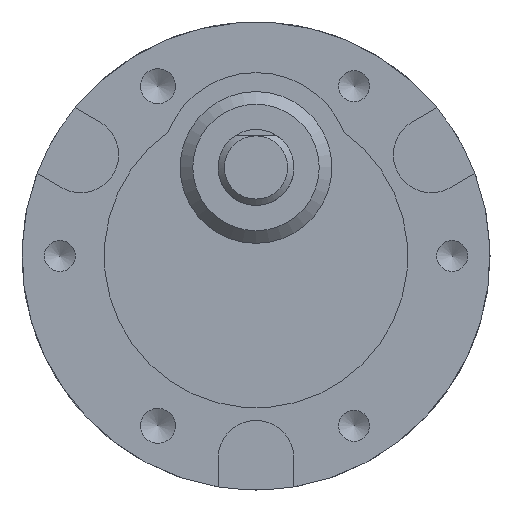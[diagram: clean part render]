
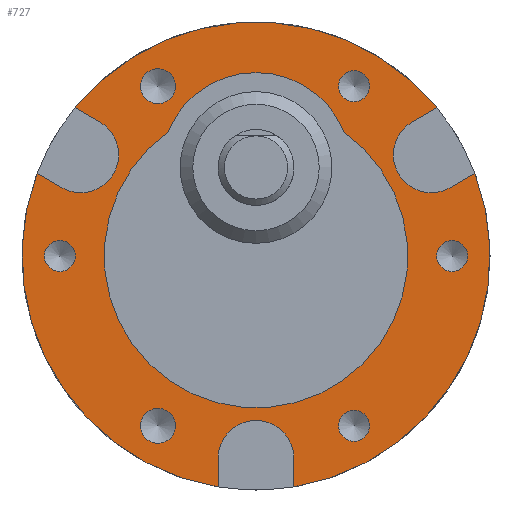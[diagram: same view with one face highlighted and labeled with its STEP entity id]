
A CAD part, front view. The second image highlights one B-rep face of the part: STEP entity #727.
In plain terms, the highlighted planar face has unit normal (0, -1, 0).
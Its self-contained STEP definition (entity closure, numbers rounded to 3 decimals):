
#351=CARTESIAN_POINT('',(14.309,0.0,11.726));
#352=VERTEX_POINT('',#351);
#359=CARTESIAN_POINT('',(12.356,0.0,10.598));
#360=VERTEX_POINT('',#359);
#361=CARTESIAN_POINT('',(12.356,0.0,10.598));
#362=DIRECTION('',(0.866,0.0,0.5));
#363=VECTOR('',#362,2.255);
#364=LINE('',#361,#363);
#365=EDGE_CURVE('',#360,#352,#364,.T.);
#391=CARTESIAN_POINT('',(15.356,0.0,5.402));
#392=VERTEX_POINT('',#391);
#393=CARTESIAN_POINT('',(13.856,0.0,8.));
#394=DIRECTION('',(0.0,1.0,0.0));
#395=DIRECTION('',(-0.5,0.0,0.866));
#396=AXIS2_PLACEMENT_3D('',#393,#394,#395);
#397=CIRCLE('',#396,3.);
#398=EDGE_CURVE('',#392,#360,#397,.T.);
#423=CARTESIAN_POINT('',(17.309,0.0,6.529));
#424=VERTEX_POINT('',#423);
#425=CARTESIAN_POINT('',(17.309,0.0,6.529));
#426=DIRECTION('',(-0.866,0.0,-0.5));
#427=VECTOR('',#426,2.255);
#428=LINE('',#425,#427);
#429=EDGE_CURVE('',#424,#392,#428,.T.);
#473=CARTESIAN_POINT('',(-17.309,0.0,6.529));
#474=VERTEX_POINT('',#473);
#481=CARTESIAN_POINT('',(-15.356,0.0,5.402));
#482=VERTEX_POINT('',#481);
#483=CARTESIAN_POINT('',(-15.356,0.0,5.402));
#484=DIRECTION('',(-0.866,0.0,0.5));
#485=VECTOR('',#484,2.255);
#486=LINE('',#483,#485);
#487=EDGE_CURVE('',#482,#474,#486,.T.);
#513=CARTESIAN_POINT('',(-12.356,0.0,10.598));
#514=VERTEX_POINT('',#513);
#515=CARTESIAN_POINT('',(-13.856,0.0,8.));
#516=DIRECTION('',(0.0,1.0,0.0));
#517=DIRECTION('',(-0.5,0.0,-0.866));
#518=AXIS2_PLACEMENT_3D('',#515,#516,#517);
#519=CIRCLE('',#518,3.);
#520=EDGE_CURVE('',#514,#482,#519,.T.);
#545=CARTESIAN_POINT('',(-14.309,0.0,11.726));
#546=VERTEX_POINT('',#545);
#547=CARTESIAN_POINT('',(-14.309,0.0,11.726));
#548=DIRECTION('',(0.866,0.0,-0.5));
#549=VECTOR('',#548,2.255);
#550=LINE('',#547,#549);
#551=EDGE_CURVE('',#546,#514,#550,.T.);
#580=CARTESIAN_POINT('',(0.0,0.0,0.0));
#581=DIRECTION('',(0.0,-1.0,0.0));
#582=DIRECTION('',(0.0,0.0,-1.0));
#583=AXIS2_PLACEMENT_3D('',#580,#581,#582);
#584=PLANE('',#583);
#585=ORIENTED_EDGE('',*,*,#429,.T.);
#586=ORIENTED_EDGE('',*,*,#398,.T.);
#587=ORIENTED_EDGE('',*,*,#365,.T.);
#588=CARTESIAN_POINT('',(0.0,0.0,0.0));
#589=DIRECTION('',(0.0,-1.0,0.0));
#590=DIRECTION('',(1.0,0.0,0.0));
#591=AXIS2_PLACEMENT_3D('',#588,#589,#590);
#592=CIRCLE('',#591,18.5);
#593=EDGE_CURVE('',#352,#546,#592,.T.);
#594=ORIENTED_EDGE('',*,*,#593,.T.);
#595=ORIENTED_EDGE('',*,*,#551,.T.);
#596=ORIENTED_EDGE('',*,*,#520,.T.);
#597=ORIENTED_EDGE('',*,*,#487,.T.);
#598=CARTESIAN_POINT('',(-3.,0.0,-18.255));
#599=VERTEX_POINT('',#598);
#600=CARTESIAN_POINT('',(0.0,0.0,0.0));
#601=DIRECTION('',(0.0,-1.0,0.0));
#602=DIRECTION('',(1.0,0.0,0.0));
#603=AXIS2_PLACEMENT_3D('',#600,#601,#602);
#604=CIRCLE('',#603,18.5);
#605=EDGE_CURVE('',#474,#599,#604,.T.);
#606=ORIENTED_EDGE('',*,*,#605,.T.);
#607=CARTESIAN_POINT('',(-3.,0.0,-16.0));
#608=VERTEX_POINT('',#607);
#609=CARTESIAN_POINT('',(-3.,0.0,-18.255));
#610=DIRECTION('',(0.0,0.0,1.0));
#611=VECTOR('',#610,2.255);
#612=LINE('',#609,#611);
#613=EDGE_CURVE('',#599,#608,#612,.T.);
#614=ORIENTED_EDGE('',*,*,#613,.T.);
#615=CARTESIAN_POINT('',(3.,0.0,-16.0));
#616=VERTEX_POINT('',#615);
#617=CARTESIAN_POINT('',(0.0,0.0,-16.0));
#618=DIRECTION('',(0.0,1.0,0.0));
#619=DIRECTION('',(1.0,0.0,0.0));
#620=AXIS2_PLACEMENT_3D('',#617,#618,#619);
#621=CIRCLE('',#620,3.);
#622=EDGE_CURVE('',#608,#616,#621,.T.);
#623=ORIENTED_EDGE('',*,*,#622,.T.);
#624=CARTESIAN_POINT('',(3.,0.0,-18.255));
#625=VERTEX_POINT('',#624);
#626=CARTESIAN_POINT('',(3.,0.0,-16.0));
#627=DIRECTION('',(0.0,0.0,-1.0));
#628=VECTOR('',#627,2.255);
#629=LINE('',#626,#628);
#630=EDGE_CURVE('',#616,#625,#629,.T.);
#631=ORIENTED_EDGE('',*,*,#630,.T.);
#632=CARTESIAN_POINT('',(0.0,0.0,0.0));
#633=DIRECTION('',(0.0,-1.0,0.0));
#634=DIRECTION('',(1.0,0.0,0.0));
#635=AXIS2_PLACEMENT_3D('',#632,#633,#634);
#636=CIRCLE('',#635,18.5);
#637=EDGE_CURVE('',#625,#424,#636,.T.);
#638=ORIENTED_EDGE('',*,*,#637,.T.);
#639=EDGE_LOOP('',(#585,#586,#587,#594,#595,#596,#597,#606,#614,#623,#631,#638));
#640=FACE_OUTER_BOUND('',#639,.T.);
#641=CARTESIAN_POINT('',(-6.37,0.0,13.423));
#642=VERTEX_POINT('',#641);
#643=CARTESIAN_POINT('',(-7.75,0.0,13.423));
#644=DIRECTION('',(0.0,1.0,0.0));
#645=DIRECTION('',(1.0,0.0,0.0));
#646=AXIS2_PLACEMENT_3D('',#643,#644,#645);
#647=CIRCLE('',#646,1.38);
#648=EDGE_CURVE('',#642,#642,#647,.T.);
#649=ORIENTED_EDGE('',*,*,#648,.T.);
#650=EDGE_LOOP('',(#649));
#651=FACE_BOUND('',#650,.T.);
#652=CARTESIAN_POINT('',(-6.37,0.0,-13.423));
#653=VERTEX_POINT('',#652);
#654=CARTESIAN_POINT('',(-7.75,0.0,-13.423));
#655=DIRECTION('',(0.0,1.0,0.0));
#656=DIRECTION('',(1.0,0.0,0.0));
#657=AXIS2_PLACEMENT_3D('',#654,#655,#656);
#658=CIRCLE('',#657,1.38);
#659=EDGE_CURVE('',#653,#653,#658,.T.);
#660=ORIENTED_EDGE('',*,*,#659,.T.);
#661=EDGE_LOOP('',(#660));
#662=FACE_BOUND('',#661,.T.);
#663=CARTESIAN_POINT('',(16.73,0.0,0.0));
#664=VERTEX_POINT('',#663);
#665=CARTESIAN_POINT('',(15.5,0.0,0.0));
#666=DIRECTION('',(0.0,1.0,0.0));
#667=DIRECTION('',(1.0,0.0,0.0));
#668=AXIS2_PLACEMENT_3D('',#665,#666,#667);
#669=CIRCLE('',#668,1.23);
#670=EDGE_CURVE('',#664,#664,#669,.T.);
#671=ORIENTED_EDGE('',*,*,#670,.T.);
#672=EDGE_LOOP('',(#671));
#673=FACE_BOUND('',#672,.T.);
#674=CARTESIAN_POINT('',(-14.27,0.0,0.0));
#675=VERTEX_POINT('',#674);
#676=CARTESIAN_POINT('',(-15.5,0.0,0.0));
#677=DIRECTION('',(0.0,1.0,0.0));
#678=DIRECTION('',(1.0,0.0,0.0));
#679=AXIS2_PLACEMENT_3D('',#676,#677,#678);
#680=CIRCLE('',#679,1.23);
#681=EDGE_CURVE('',#675,#675,#680,.T.);
#682=ORIENTED_EDGE('',*,*,#681,.T.);
#683=EDGE_LOOP('',(#682));
#684=FACE_BOUND('',#683,.T.);
#685=CARTESIAN_POINT('',(8.979,0.0,13.423));
#686=VERTEX_POINT('',#685);
#687=CARTESIAN_POINT('',(7.75,0.0,13.423));
#688=DIRECTION('',(0.0,1.0,0.0));
#689=DIRECTION('',(1.0,0.0,0.0));
#690=AXIS2_PLACEMENT_3D('',#687,#688,#689);
#691=CIRCLE('',#690,1.23);
#692=EDGE_CURVE('',#686,#686,#691,.T.);
#693=ORIENTED_EDGE('',*,*,#692,.T.);
#694=EDGE_LOOP('',(#693));
#695=FACE_BOUND('',#694,.T.);
#696=CARTESIAN_POINT('',(8.979,0.0,-13.423));
#697=VERTEX_POINT('',#696);
#698=CARTESIAN_POINT('',(7.75,0.0,-13.423));
#699=DIRECTION('',(0.0,1.0,0.0));
#700=DIRECTION('',(1.0,0.0,0.0));
#701=AXIS2_PLACEMENT_3D('',#698,#699,#700);
#702=CIRCLE('',#701,1.23);
#703=EDGE_CURVE('',#697,#697,#702,.T.);
#704=ORIENTED_EDGE('',*,*,#703,.T.);
#705=EDGE_LOOP('',(#704));
#706=FACE_BOUND('',#705,.T.);
#707=CARTESIAN_POINT('',(-6.971,0.0,9.768));
#708=VERTEX_POINT('',#707);
#709=CARTESIAN_POINT('',(6.971,0.0,9.768));
#710=VERTEX_POINT('',#709);
#711=CARTESIAN_POINT('',(0.0,0.0,7.));
#712=DIRECTION('',(0.0,1.,0.0));
#713=DIRECTION('',(0.929,0.0,0.369));
#714=AXIS2_PLACEMENT_3D('',#711,#712,#713);
#715=CIRCLE('',#714,7.5);
#716=EDGE_CURVE('',#708,#710,#715,.T.);
#717=ORIENTED_EDGE('',*,*,#716,.T.);
#718=CARTESIAN_POINT('',(0.0,0.0,0.0));
#719=DIRECTION('',(0.0,1.0,0.0));
#720=DIRECTION('',(-0.581,0.0,0.814));
#721=AXIS2_PLACEMENT_3D('',#718,#719,#720);
#722=CIRCLE('',#721,12.0);
#723=EDGE_CURVE('',#710,#708,#722,.T.);
#724=ORIENTED_EDGE('',*,*,#723,.T.);
#725=EDGE_LOOP('',(#717,#724));
#726=FACE_BOUND('',#725,.T.);
#727=ADVANCED_FACE('',(#640,#651,#662,#673,#684,#695,#706,#726),#584,.T.);
